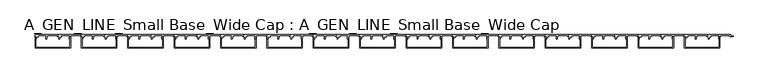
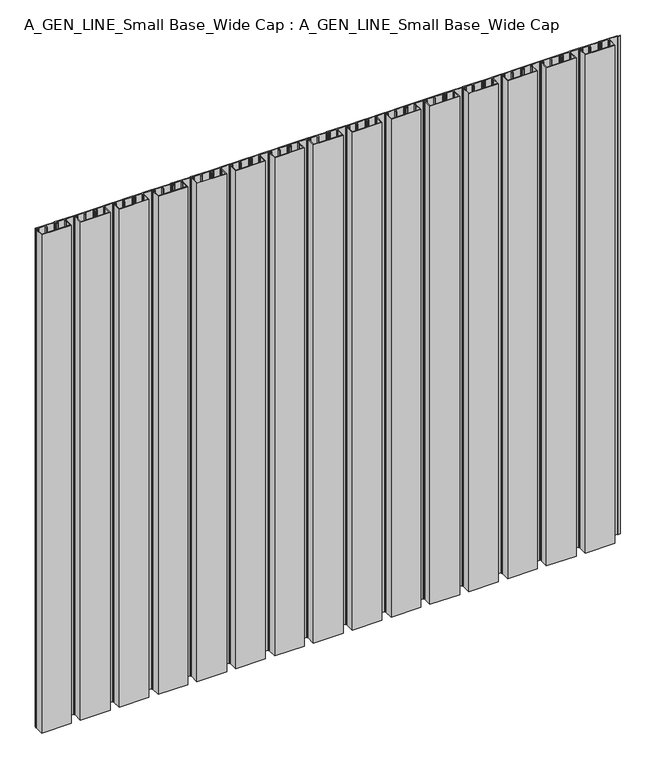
"""IFC4 building model written with IfcOpenShell, lengths in millimetres: proxy geometry, A_GEN_LINE_Small Base_Wide Cap : A_GEN_LINE_Small Base_Wide Cap."""

from ifc_helpers import new_model, si_unit, origin, origin_with_axes, place, context, project, spatial, polyline, outline, extrude, source, transform, mapped, element, save


def a_gen_line_small_base_wide_cap_a_gen_line_small_base_wide_f15921c7(model_context):
    return source(origin(), model_context, "Body", "SweptSolid", [
        extrude(outline(polyline([(1548.522222, -32.2007192), (1548.522222, -6.1), (1550.671229, -6.1), (1550.671229, -8.3419727), (1549.922222, -8.5826662), (1549.922222, -30.8007192), (1631.7452365, -30.8007192), (1631.7452365, -8.5826662), (1630.9962295, -8.3419727), (1630.9962295, -6.1), (1633.1452365, -6.1), (1633.1452365, -32.2007192), (1548.522222, -32.2007192)])), origin_with_axes(), (0.0, 0.0, 1.0), 1500.0),
        extrude(outline(polyline([(1437.9082742, -32.2007192), (1437.9082742, -6.1), (1440.0572811, -6.1), (1440.0572811, -8.3419727), (1439.3082742, -8.5826662), (1439.3082742, -30.8007192), (1521.1312886, -30.8007192), (1521.1312886, -8.5826662), (1520.3822817, -8.3419727), (1520.3822817, -6.1), (1522.5312886, -6.1), (1522.5312886, -32.2007192), (1437.9082742, -32.2007192)])), origin_with_axes(), (0.0, 0.0, 1.0), 1500.0),
        extrude(outline(polyline([(1327.2943263, -32.2007192), (1327.2943263, -6.1), (1329.4433332, -6.1), (1329.4433332, -8.3419727), (1328.6943263, -8.5826662), (1328.6943263, -30.8007192), (1410.5173407, -30.8007192), (1410.5173407, -8.5826662), (1409.7683338, -8.3419727), (1409.7683338, -6.1), (1411.9173407, -6.1), (1411.9173407, -32.2007192), (1327.2943263, -32.2007192)])), origin_with_axes(), (0.0, 0.0, 1.0), 1500.0),
        extrude(outline(polyline([(1216.6803784, -32.2007192), (1216.6803784, -6.1), (1218.8293853, -6.1), (1218.8293853, -8.3419727), (1218.0803784, -8.5826662), (1218.0803784, -30.8007192), (1299.9033928, -30.8007192), (1299.9033928, -8.5826662), (1299.1543859, -8.3419727), (1299.1543859, -6.1), (1301.3033928, -6.1), (1301.3033928, -32.2007192), (1216.6803784, -32.2007192)])), origin_with_axes(), (0.0, 0.0, 1.0), 1500.0),
        extrude(outline(polyline([(1603.9022444, 0.0), (1658.4751388, 0.0), (1658.4751388, -2.85), (1664.4751388, -2.85), (1664.4751388, -4.2), (1656.9567837, -4.2), (1656.9567837, -2.4), (1633.4872162, -2.4), (1633.4872162, -6.1021884), (1632.3722428, -6.1021884), (1630.783677, -8.4994005), (1632.0456109, -8.4994005), (1632.0456109, -10.4818695), (1629.8430848, -10.4818695), (1629.8430848, -5.6343123), (1631.942206, -2.4), (1611.121797, -2.4), (1611.121797, -6.1), (1607.1313476, -6.1), (1607.1313476, -10.4818695), (1604.9288216, -10.4818695), (1604.9288216, -8.4994005), (1606.1907555, -8.4994005), (1604.6021897, -6.1021884), (1603.5160042, -6.1021884), (1603.5160042, -4.9), (1609.921797, -4.9), (1609.921797, -2.7), (1603.9022444, -2.7), (1603.9022444, 0.0)])), origin_with_axes(), (0.0, 0.0, 1.0), 1500.0),
        extrude(outline(polyline([(1548.5952704, 0.0), (1603.1681648, 0.0), (1603.1681648, -2.85), (1609.1681648, -2.85), (1609.1681648, -4.2), (1601.6498098, -4.2), (1601.6498098, -2.4), (1578.1802423, -2.4), (1578.1802423, -6.1021884), (1577.0652689, -6.1021884), (1575.4767031, -8.4994005), (1576.738637, -8.4994005), (1576.738637, -10.4818695), (1574.5361109, -10.4818695), (1574.5361109, -5.6343123), (1576.6352321, -2.4), (1555.8148231, -2.4), (1555.8148231, -6.1), (1551.8243737, -6.1), (1551.8243737, -10.4818695), (1549.6218477, -10.4818695), (1549.6218477, -8.4994005), (1550.8837815, -8.4994005), (1549.2952158, -6.1021884), (1548.2090302, -6.1021884), (1548.2090302, -4.9), (1554.6148231, -4.9), (1554.6148231, -2.7), (1548.5952704, -2.7), (1548.5952704, 0.0)])), origin_with_axes(), (0.0, 0.0, 1.0), 1500.0),
        extrude(outline(polyline([(1493.2882965, 0.0), (1547.8611909, 0.0), (1547.8611909, -2.85), (1553.8611909, -2.85), (1553.8611909, -4.2), (1546.3428358, -4.2), (1546.3428358, -2.4), (1522.8732684, -2.4), (1522.8732684, -6.1021884), (1521.7582949, -6.1021884), (1520.1697291, -8.4994005), (1521.431663, -8.4994005), (1521.431663, -10.4818695), (1519.229137, -10.4818695), (1519.229137, -5.6343123), (1521.3282581, -2.4), (1500.5078491, -2.4), (1500.5078491, -6.1), (1496.5173998, -6.1), (1496.5173998, -10.4818695), (1494.3148737, -10.4818695), (1494.3148737, -8.4994005), (1495.5768076, -8.4994005), (1493.9882418, -6.1021884), (1492.9020563, -6.1021884), (1492.9020563, -4.9), (1499.3078491, -4.9), (1499.3078491, -2.7), (1493.2882965, -2.7), (1493.2882965, 0.0)])), origin_with_axes(), (0.0, 0.0, 1.0), 1500.0),
        extrude(outline(polyline([(1437.9813225, 0.0), (1492.5542169, 0.0), (1492.5542169, -2.85), (1498.5542169, -2.85), (1498.5542169, -4.2), (1491.0358619, -4.2), (1491.0358619, -2.4), (1467.5662944, -2.4), (1467.5662944, -6.1021884), (1466.451321, -6.1021884), (1464.8627552, -8.4994005), (1466.1246891, -8.4994005), (1466.1246891, -10.4818695), (1463.922163, -10.4818695), (1463.922163, -5.6343123), (1466.0212842, -2.4), (1445.2008752, -2.4), (1445.2008752, -6.1), (1441.2104258, -6.1), (1441.2104258, -10.4818695), (1439.0078998, -10.4818695), (1439.0078998, -8.4994005), (1440.2698337, -8.4994005), (1438.6812679, -6.1021884), (1437.5950823, -6.1021884), (1437.5950823, -4.9), (1444.0008752, -4.9), (1444.0008752, -2.7), (1437.9813225, -2.7), (1437.9813225, 0.0)])), origin_with_axes(), (0.0, 0.0, 1.0), 1500.0),
        extrude(outline(polyline([(1382.6743486, 0.0), (1437.247243, 0.0), (1437.247243, -2.85), (1443.247243, -2.85), (1443.247243, -4.2), (1435.7288879, -4.2), (1435.7288879, -2.4), (1412.2593205, -2.4), (1412.2593205, -6.1021884), (1411.144347, -6.1021884), (1409.5557812, -8.4994005), (1410.8177151, -8.4994005), (1410.8177151, -10.4818695), (1408.6151891, -10.4818695), (1408.6151891, -5.6343123), (1410.7143102, -2.4), (1389.8939013, -2.4), (1389.8939013, -6.1), (1385.9034519, -6.1), (1385.9034519, -10.4818695), (1383.7009258, -10.4818695), (1383.7009258, -8.4994005), (1384.9628597, -8.4994005), (1383.3742939, -6.1021884), (1382.2881084, -6.1021884), (1382.2881084, -4.9), (1388.6939013, -4.9), (1388.6939013, -2.7), (1382.6743486, -2.7), (1382.6743486, 0.0)])), origin_with_axes(), (0.0, 0.0, 1.0), 1500.0),
        extrude(outline(polyline([(1327.3673747, 0.0), (1381.9402691, 0.0), (1381.9402691, -2.85), (1387.9402691, -2.85), (1387.9402691, -4.2), (1380.421914, -4.2), (1380.421914, -2.4), (1356.9523465, -2.4), (1356.9523465, -6.1021884), (1355.8373731, -6.1021884), (1354.2488073, -8.4994005), (1355.5107412, -8.4994005), (1355.5107412, -10.4818695), (1353.3082151, -10.4818695), (1353.3082151, -5.6343123), (1355.4073363, -2.4), (1334.5869273, -2.4), (1334.5869273, -6.1), (1330.5964779, -6.1), (1330.5964779, -10.4818695), (1328.3939519, -10.4818695), (1328.3939519, -8.4994005), (1329.6558858, -8.4994005), (1328.06732, -6.1021884), (1326.9811345, -6.1021884), (1326.9811345, -4.9), (1333.3869273, -4.9), (1333.3869273, -2.7), (1327.3673747, -2.7), (1327.3673747, 0.0)])), origin_with_axes(), (0.0, 0.0, 1.0), 1500.0),
        extrude(outline(polyline([(1272.0604007, 0.0), (1326.6332951, 0.0), (1326.6332951, -2.85), (1332.6332951, -2.85), (1332.6332951, -4.2), (1325.11494, -4.2), (1325.11494, -2.4), (1301.6453726, -2.4), (1301.6453726, -6.1021884), (1300.5303991, -6.1021884), (1298.9418333, -8.4994005), (1300.2037672, -8.4994005), (1300.2037672, -10.4818695), (1298.0012412, -10.4818695), (1298.0012412, -5.6343123), (1300.1003623, -2.4), (1279.2799534, -2.4), (1279.2799534, -6.1), (1275.289504, -6.1), (1275.289504, -10.4818695), (1273.0869779, -10.4818695), (1273.0869779, -8.4994005), (1274.3489118, -8.4994005), (1272.760346, -6.1021884), (1271.6741605, -6.1021884), (1271.6741605, -4.9), (1278.0799534, -4.9), (1278.0799534, -2.7), (1272.0604007, -2.7), (1272.0604007, 0.0)])), origin_with_axes(), (0.0, 0.0, 1.0), 1500.0),
        extrude(outline(polyline([(1216.7534268, 0.0), (1271.3263212, 0.0), (1271.3263212, -2.85), (1277.3263212, -2.85), (1277.3263212, -4.2), (1269.8079661, -4.2), (1269.8079661, -2.4), (1246.3383986, -2.4), (1246.3383986, -6.1021884), (1245.2234252, -6.1021884), (1243.6348594, -8.4994005), (1244.8967933, -8.4994005), (1244.8967933, -10.4818695), (1242.6942672, -10.4818695), (1242.6942672, -5.6343123), (1244.7933884, -2.4), (1223.9729794, -2.4), (1223.9729794, -6.1), (1219.98253, -6.1), (1219.98253, -10.4818695), (1217.780004, -10.4818695), (1217.780004, -8.4994005), (1219.0419379, -8.4994005), (1217.4533721, -6.1021884), (1216.3671866, -6.1021884), (1216.3671866, -4.9), (1222.7729794, -4.9), (1222.7729794, -2.7), (1216.7534268, -2.7), (1216.7534268, 0.0)])), origin_with_axes(), (0.0, 0.0, 1.0), 1500.0),
        extrude(outline(polyline([(1106.0664305, -32.2007192), (1106.0664305, -6.1), (1108.2154375, -6.1), (1108.2154375, -8.3419727), (1107.4664305, -8.5826662), (1107.4664305, -30.8007192), (1189.289445, -30.8007192), (1189.289445, -8.5826662), (1188.540438, -8.3419727), (1188.540438, -6.1), (1190.689445, -6.1), (1190.689445, -32.2007192), (1106.0664305, -32.2007192)])), origin_with_axes(), (0.0, 0.0, 1.0), 1500.0),
        extrude(outline(polyline([(995.4524826, -32.2007192), (995.4524826, -6.1), (997.6014896, -6.1), (997.6014896, -8.3419727), (996.8524826, -8.5826662), (996.8524826, -30.8007192), (1078.6754971, -30.8007192), (1078.6754971, -8.5826662), (1077.9264901, -8.3419727), (1077.9264901, -6.1), (1080.0754971, -6.1), (1080.0754971, -32.2007192), (995.4524826, -32.2007192)])), origin_with_axes(), (0.0, 0.0, 1.0), 1500.0),
        extrude(outline(polyline([(884.8385347, -32.2007192), (884.8385347, -6.1), (886.9875417, -6.1), (886.9875417, -8.3419727), (886.2385347, -8.5826662), (886.2385347, -30.8007192), (968.0615492, -30.8007192), (968.0615492, -8.5826662), (967.3125422, -8.3419727), (967.3125422, -6.1), (969.4615492, -6.1), (969.4615492, -32.2007192), (884.8385347, -32.2007192)])), origin_with_axes(), (0.0, 0.0, 1.0), 1500.0),
        extrude(outline(polyline([(774.2245868, -32.2007192), (774.2245868, -6.1), (776.3735938, -6.1), (776.3735938, -8.3419727), (775.6245868, -8.5826662), (775.6245868, -30.8007192), (857.4476013, -30.8007192), (857.4476013, -8.5826662), (856.6985943, -8.3419727), (856.6985943, -6.1), (858.8476013, -6.1), (858.8476013, -32.2007192), (774.2245868, -32.2007192)])), origin_with_axes(), (0.0, 0.0, 1.0), 1500.0),
        extrude(outline(polyline([(1161.4464528, 0.0), (1216.0193472, 0.0), (1216.0193472, -2.85), (1222.0193472, -2.85), (1222.0193472, -4.2), (1214.5009922, -4.2), (1214.5009922, -2.4), (1191.0314247, -2.4), (1191.0314247, -6.1021884), (1189.9164513, -6.1021884), (1188.3278855, -8.4994005), (1189.5898194, -8.4994005), (1189.5898194, -10.4818695), (1187.3872933, -10.4818695), (1187.3872933, -5.6343123), (1189.4864144, -2.4), (1168.6660055, -2.4), (1168.6660055, -6.1), (1164.6755561, -6.1), (1164.6755561, -10.4818695), (1162.47303, -10.4818695), (1162.47303, -8.4994005), (1163.7349639, -8.4994005), (1162.1463981, -6.1021884), (1161.0602126, -6.1021884), (1161.0602126, -4.9), (1167.4660055, -4.9), (1167.4660055, -2.7), (1161.4464528, -2.7), (1161.4464528, 0.0)])), origin_with_axes(), (0.0, 0.0, 1.0), 1500.0),
        extrude(outline(polyline([(1106.1394789, 0.0), (1160.7123733, 0.0), (1160.7123733, -2.85), (1166.7123733, -2.85), (1166.7123733, -4.2), (1159.1940182, -4.2), (1159.1940182, -2.4), (1135.7244508, -2.4), (1135.7244508, -6.1021884), (1134.6094773, -6.1021884), (1133.0209115, -8.4994005), (1134.2828454, -8.4994005), (1134.2828454, -10.4818695), (1132.0803194, -10.4818695), (1132.0803194, -5.6343123), (1134.1794405, -2.4), (1113.3590315, -2.4), (1113.3590315, -6.1), (1109.3685822, -6.1), (1109.3685822, -10.4818695), (1107.1660561, -10.4818695), (1107.1660561, -8.4994005), (1108.42799, -8.4994005), (1106.8394242, -6.1021884), (1105.7532387, -6.1021884), (1105.7532387, -4.9), (1112.1590315, -4.9), (1112.1590315, -2.7), (1106.1394789, -2.7), (1106.1394789, 0.0)])), origin_with_axes(), (0.0, 0.0, 1.0), 1500.0),
        extrude(outline(polyline([(1050.8325049, 0.0), (1105.4053993, 0.0), (1105.4053993, -2.85), (1111.4053993, -2.85), (1111.4053993, -4.2), (1103.8870443, -4.2), (1103.8870443, -2.4), (1080.4174768, -2.4), (1080.4174768, -6.1021884), (1079.3025034, -6.1021884), (1077.7139376, -8.4994005), (1078.9758715, -8.4994005), (1078.9758715, -10.4818695), (1076.7733454, -10.4818695), (1076.7733454, -5.6343123), (1078.8724666, -2.4), (1058.0520576, -2.4), (1058.0520576, -6.1), (1054.0616082, -6.1), (1054.0616082, -10.4818695), (1051.8590822, -10.4818695), (1051.8590822, -8.4994005), (1053.121016, -8.4994005), (1051.5324503, -6.1021884), (1050.4462647, -6.1021884), (1050.4462647, -4.9), (1056.8520576, -4.9), (1056.8520576, -2.7), (1050.8325049, -2.7), (1050.8325049, 0.0)])), origin_with_axes(), (0.0, 0.0, 1.0), 1500.0),
        extrude(outline(polyline([(995.525531, 0.0), (1050.0984254, 0.0), (1050.0984254, -2.85), (1056.0984254, -2.85), (1056.0984254, -4.2), (1048.5800703, -4.2), (1048.5800703, -2.4), (1025.1105029, -2.4), (1025.1105029, -6.1021884), (1023.9955294, -6.1021884), (1022.4069636, -8.4994005), (1023.6688975, -8.4994005), (1023.6688975, -10.4818695), (1021.4663715, -10.4818695), (1021.4663715, -5.6343123), (1023.5654926, -2.4), (1002.7450837, -2.4), (1002.7450837, -6.1), (998.7546343, -6.1), (998.7546343, -10.4818695), (996.5521082, -10.4818695), (996.5521082, -8.4994005), (997.8140421, -8.4994005), (996.2254763, -6.1021884), (995.1392908, -6.1021884), (995.1392908, -4.9), (1001.5450837, -4.9), (1001.5450837, -2.7), (995.525531, -2.7), (995.525531, 0.0)])), origin_with_axes(), (0.0, 0.0, 1.0), 1500.0),
        extrude(outline(polyline([(940.218557, 0.0), (994.7914514, 0.0), (994.7914514, -2.85), (1000.7914514, -2.85), (1000.7914514, -4.2), (993.2730964, -4.2), (993.2730964, -2.4), (969.8035289, -2.4), (969.8035289, -6.1021884), (968.6885555, -6.1021884), (967.0999897, -8.4994005), (968.3619236, -8.4994005), (968.3619236, -10.4818695), (966.1593975, -10.4818695), (966.1593975, -5.6343123), (968.2585187, -2.4), (947.4381097, -2.4), (947.4381097, -6.1), (943.4476603, -6.1), (943.4476603, -10.4818695), (941.2451343, -10.4818695), (941.2451343, -8.4994005), (942.5070682, -8.4994005), (940.9185024, -6.1021884), (939.8323169, -6.1021884), (939.8323169, -4.9), (946.2381097, -4.9), (946.2381097, -2.7), (940.218557, -2.7), (940.218557, 0.0)])), origin_with_axes(), (0.0, 0.0, 1.0), 1500.0),
        extrude(outline(polyline([(884.9115831, 0.0), (939.4844775, 0.0), (939.4844775, -2.85), (945.4844775, -2.85), (945.4844775, -4.2), (937.9661224, -4.2), (937.9661224, -2.4), (914.496555, -2.4), (914.496555, -6.1021884), (913.3815815, -6.1021884), (911.7930157, -8.4994005), (913.0549496, -8.4994005), (913.0549496, -10.4818695), (910.8524236, -10.4818695), (910.8524236, -5.6343123), (912.9515447, -2.4), (892.1311358, -2.4), (892.1311358, -6.1), (888.1406864, -6.1), (888.1406864, -10.4818695), (885.9381603, -10.4818695), (885.9381603, -8.4994005), (887.2000942, -8.4994005), (885.6115284, -6.1021884), (884.5253429, -6.1021884), (884.5253429, -4.9), (890.9311358, -4.9), (890.9311358, -2.7), (884.9115831, -2.7), (884.9115831, 0.0)])), origin_with_axes(), (0.0, 0.0, 1.0), 1500.0),
        extrude(outline(polyline([(829.6046092, 0.0), (884.1775036, 0.0), (884.1775036, -2.85), (890.1775036, -2.85), (890.1775036, -4.2), (882.6591485, -4.2), (882.6591485, -2.4), (859.189581, -2.4), (859.189581, -6.1021884), (858.0746076, -6.1021884), (856.4860418, -8.4994005), (857.7479757, -8.4994005), (857.7479757, -10.4818695), (855.5454496, -10.4818695), (855.5454496, -5.6343123), (857.6445708, -2.4), (836.8241618, -2.4), (836.8241618, -6.1), (832.8337124, -6.1), (832.8337124, -10.4818695), (830.6311864, -10.4818695), (830.6311864, -8.4994005), (831.8931203, -8.4994005), (830.3045545, -6.1021884), (829.218369, -6.1021884), (829.218369, -4.9), (835.6241618, -4.9), (835.6241618, -2.7), (829.6046092, -2.7), (829.6046092, 0.0)])), origin_with_axes(), (0.0, 0.0, 1.0), 1500.0),
        extrude(outline(polyline([(774.2976352, 0.0), (828.8705296, 0.0), (828.8705296, -2.85), (834.8705296, -2.85), (834.8705296, -4.2), (827.3521745, -4.2), (827.3521745, -2.4), (803.8826071, -2.4), (803.8826071, -6.1021884), (802.7676336, -6.1021884), (801.1790678, -8.4994005), (802.4410017, -8.4994005), (802.4410017, -10.4818695), (800.2384757, -10.4818695), (800.2384757, -5.6343123), (802.3375968, -2.4), (781.5171879, -2.4), (781.5171879, -6.1), (777.5267385, -6.1), (777.5267385, -10.4818695), (775.3242124, -10.4818695), (775.3242124, -8.4994005), (776.5861463, -8.4994005), (774.9975805, -6.1021884), (773.911395, -6.1021884), (773.911395, -4.9), (780.3171879, -4.9), (780.3171879, -2.7), (774.2976352, -2.7), (774.2976352, 0.0)])), origin_with_axes(), (0.0, 0.0, 1.0), 1500.0),
        extrude(outline(polyline([(718.9906613, 0.0), (773.5635557, 0.0), (773.5635557, -2.85), (779.5635557, -2.85), (779.5635557, -4.2), (772.0452006, -4.2), (772.0452006, -2.4), (748.5756331, -2.4), (748.5756331, -6.1021884), (747.4606597, -6.1021884), (745.8720939, -8.4994005), (747.1340278, -8.4994005), (747.1340278, -10.4818695), (744.9315017, -10.4818695), (744.9315017, -5.6343123), (747.0306229, -2.4), (726.2102139, -2.4), (726.2102139, -6.1), (722.2197645, -6.1), (722.2197645, -10.4818695), (720.0172385, -10.4818695), (720.0172385, -8.4994005), (721.2791724, -8.4994005), (719.6906066, -6.1021884), (718.6044211, -6.1021884), (718.6044211, -4.9), (725.0102139, -4.9), (725.0102139, -2.7), (718.9906613, -2.7), (718.9906613, 0.0)])), origin_with_axes(), (0.0, 0.0, 1.0), 1500.0),
        extrude(outline(polyline([(663.6836873, 0.0), (718.2565817, 0.0), (718.2565817, -2.85), (724.2565817, -2.85), (724.2565817, -4.2), (716.7382267, -4.2), (716.7382267, -2.4), (693.2686592, -2.4), (693.2686592, -6.1021884), (692.1536858, -6.1021884), (690.56512, -8.4994005), (691.8270539, -8.4994005), (691.8270539, -10.4818695), (689.6245278, -10.4818695), (689.6245278, -5.6343123), (691.7236489, -2.4), (670.90324, -2.4), (670.90324, -6.1), (666.9127906, -6.1), (666.9127906, -10.4818695), (664.7102645, -10.4818695), (664.7102645, -8.4994005), (665.9721984, -8.4994005), (664.3836326, -6.1021884), (663.2974471, -6.1021884), (663.2974471, -4.9), (669.70324, -4.9), (669.70324, -2.7), (663.6836873, -2.7), (663.6836873, 0.0)])), origin_with_axes(), (0.0, 0.0, 1.0), 1500.0),
        extrude(outline(polyline([(608.3767134, 0.0), (662.9496078, 0.0), (662.9496078, -2.85), (668.9496078, -2.85), (668.9496078, -4.2), (661.4312527, -4.2), (661.4312527, -2.4), (637.9616853, -2.4), (637.9616853, -6.1021884), (636.8467118, -6.1021884), (635.258146, -8.4994005), (636.5200799, -8.4994005), (636.5200799, -10.4818695), (634.3175539, -10.4818695), (634.3175539, -5.6343123), (636.416675, -2.4), (615.596266, -2.4), (615.596266, -6.1), (611.6058167, -6.1), (611.6058167, -10.4818695), (609.4032906, -10.4818695), (609.4032906, -8.4994005), (610.6652245, -8.4994005), (609.0766587, -6.1021884), (607.9904732, -6.1021884), (607.9904732, -4.9), (614.396266, -4.9), (614.396266, -2.7), (608.3767134, -2.7), (608.3767134, 0.0)])), origin_with_axes(), (0.0, 0.0, 1.0), 1500.0),
        extrude(outline(polyline([(553.0697394, 0.0), (607.6426338, 0.0), (607.6426338, -2.85), (613.6426338, -2.85), (613.6426338, -4.2), (606.1242788, -4.2), (606.1242788, -2.4), (582.6547113, -2.4), (582.6547113, -6.1021884), (581.5397379, -6.1021884), (579.9511721, -8.4994005), (581.213106, -8.4994005), (581.213106, -10.4818695), (579.0105799, -10.4818695), (579.0105799, -5.6343123), (581.1097011, -2.4), (560.2892921, -2.4), (560.2892921, -6.1), (556.2988427, -6.1), (556.2988427, -10.4818695), (554.0963167, -10.4818695), (554.0963167, -8.4994005), (555.3582506, -8.4994005), (553.7696848, -6.1021884), (552.6834992, -6.1021884), (552.6834992, -4.9), (559.0892921, -4.9), (559.0892921, -2.7), (553.0697394, -2.7), (553.0697394, 0.0)])), origin_with_axes(), (0.0, 0.0, 1.0), 1500.0),
        extrude(outline(polyline([(497.7627655, 0.0), (552.3356599, 0.0), (552.3356599, -2.85), (558.3356599, -2.85), (558.3356599, -4.2), (550.8173048, -4.2), (550.8173048, -2.4), (527.3477374, -2.4), (527.3477374, -6.1021884), (526.2327639, -6.1021884), (524.6441981, -8.4994005), (525.906132, -8.4994005), (525.906132, -10.4818695), (523.703606, -10.4818695), (523.703606, -5.6343123), (525.8027271, -2.4), (504.9823182, -2.4), (504.9823182, -6.1), (500.9918688, -6.1), (500.9918688, -10.4818695), (498.7893427, -10.4818695), (498.7893427, -8.4994005), (500.0512766, -8.4994005), (498.4627108, -6.1021884), (497.3765253, -6.1021884), (497.3765253, -4.9), (503.7823182, -4.9), (503.7823182, -2.7), (497.7627655, -2.7), (497.7627655, 0.0)])), origin_with_axes(), (0.0, 0.0, 1.0), 1500.0),
        extrude(outline(polyline([(442.4557916, 0.0), (497.028686, 0.0), (497.028686, -2.85), (503.028686, -2.85), (503.028686, -4.2), (495.5103309, -4.2), (495.5103309, -2.4), (472.0407634, -2.4), (472.0407634, -6.1021884), (470.92579, -6.1021884), (469.3372242, -8.4994005), (470.5991581, -8.4994005), (470.5991581, -10.4818695), (468.396632, -10.4818695), (468.396632, -5.6343123), (470.4957532, -2.4), (449.6753442, -2.4), (449.6753442, -6.1), (445.6848948, -6.1), (445.6848948, -10.4818695), (443.4823688, -10.4818695), (443.4823688, -8.4994005), (444.7443027, -8.4994005), (443.1557369, -6.1021884), (442.0695514, -6.1021884), (442.0695514, -4.9), (448.4753442, -4.9), (448.4753442, -2.7), (442.4557916, -2.7), (442.4557916, 0.0)])), origin_with_axes(), (0.0, 0.0, 1.0), 1500.0),
        extrude(outline(polyline([(387.1488176, 0.0), (441.721712, 0.0), (441.721712, -2.85), (447.721712, -2.85), (447.721712, -4.2), (440.2033569, -4.2), (440.2033569, -2.4), (416.7337895, -2.4), (416.7337895, -6.1021884), (415.618816, -6.1021884), (414.0302502, -8.4994005), (415.2921841, -8.4994005), (415.2921841, -10.4818695), (413.0896581, -10.4818695), (413.0896581, -5.6343123), (415.1887792, -2.4), (394.3683703, -2.4), (394.3683703, -6.1), (390.3779209, -6.1), (390.3779209, -10.4818695), (388.1753948, -10.4818695), (388.1753948, -8.4994005), (389.4373287, -8.4994005), (387.8487629, -6.1021884), (386.7625774, -6.1021884), (386.7625774, -4.9), (393.1683703, -4.9), (393.1683703, -2.7), (387.1488176, -2.7), (387.1488176, 0.0)])), origin_with_axes(), (0.0, 0.0, 1.0), 1500.0),
        extrude(outline(polyline([(663.6106389, -32.2007192), (663.6106389, -6.1), (665.7596459, -6.1), (665.7596459, -8.3419727), (665.0106389, -8.5826662), (665.0106389, -30.8007192), (746.8336534, -30.8007192), (746.8336534, -8.5826662), (746.0846464, -8.3419727), (746.0846464, -6.1), (748.2336534, -6.1), (748.2336534, -32.2007192), (663.6106389, -32.2007192)])), origin_with_axes(), (0.0, 0.0, 1.0), 1500.0),
        extrude(outline(polyline([(552.9966911, -32.2007192), (552.9966911, -6.1), (555.145698, -6.1), (555.145698, -8.3419727), (554.3966911, -8.5826662), (554.3966911, -30.8007192), (636.2197055, -30.8007192), (636.2197055, -8.5826662), (635.4706986, -8.3419727), (635.4706986, -6.1), (637.6197055, -6.1), (637.6197055, -32.2007192), (552.9966911, -32.2007192)])), origin_with_axes(), (0.0, 0.0, 1.0), 1500.0),
        extrude(outline(polyline([(442.3827432, -32.2007192), (442.3827432, -6.1), (444.5317501, -6.1), (444.5317501, -8.3419727), (443.7827432, -8.5826662), (443.7827432, -30.8007192), (525.6057576, -30.8007192), (525.6057576, -8.5826662), (524.8567507, -8.3419727), (524.8567507, -6.1), (527.0057576, -6.1), (527.0057576, -32.2007192), (442.3827432, -32.2007192)])), origin_with_axes(), (0.0, 0.0, 1.0), 1500.0),
        extrude(outline(polyline([(331.7687953, -32.2007192), (331.7687953, -6.1), (333.9178022, -6.1), (333.9178022, -8.3419727), (333.1687953, -8.5826662), (333.1687953, -30.8007192), (414.9918097, -30.8007192), (414.9918097, -8.5826662), (414.2428028, -8.3419727), (414.2428028, -6.1), (416.3918097, -6.1), (416.3918097, -32.2007192), (331.7687953, -32.2007192)])), origin_with_axes(), (0.0, 0.0, 1.0), 1500.0),
        extrude(outline(polyline([(221.1548474, -32.2007192), (221.1548474, -6.1), (223.3038544, -6.1), (223.3038544, -8.3419727), (222.5548474, -8.5826662), (222.5548474, -30.8007192), (304.3778618, -30.8007192), (304.3778618, -8.5826662), (303.6288549, -8.3419727), (303.6288549, -6.1), (305.7778618, -6.1), (305.7778618, -32.2007192), (221.1548474, -32.2007192)])), origin_with_axes(), (0.0, 0.0, 1.0), 1500.0),
        extrude(outline(polyline([(110.5408995, -32.2007192), (110.5408995, -6.1), (112.6899065, -6.1), (112.6899065, -8.3419727), (111.9408995, -8.5826662), (111.9408995, -30.8007192), (193.763914, -30.8007192), (193.763914, -8.5826662), (193.014907, -8.3419727), (193.014907, -6.1), (195.163914, -6.1), (195.163914, -32.2007192), (110.5408995, -32.2007192)])), origin_with_axes(), (0.0, 0.0, 1.0), 1500.0),
        extrude(outline(polyline([(-0.0730484, -32.2007192), (-0.0730484, -6.1), (2.0759586, -6.1), (2.0759586, -8.3419727), (1.3269516, -8.5826662), (1.3269516, -30.8007192), (83.1499661, -30.8007192), (83.1499661, -8.5826662), (82.4009591, -8.3419727), (82.4009591, -6.1), (84.5499661, -6.1), (84.5499661, -32.2007192), (-0.0730484, -32.2007192)])), origin_with_axes(), (0.0, 0.0, 1.0), 1500.0),
        extrude(outline(polyline([(331.8418437, 0.0), (386.4147381, 0.0), (386.4147381, -2.85), (392.4147381, -2.85), (392.4147381, -4.2), (384.896383, -4.2), (384.896383, -2.4), (361.4268155, -2.4), (361.4268155, -6.1021884), (360.3118421, -6.1021884), (358.7232763, -8.4994005), (359.9852102, -8.4994005), (359.9852102, -10.4818695), (357.7826841, -10.4818695), (357.7826841, -5.6343123), (359.8818053, -2.4), (339.0613963, -2.4), (339.0613963, -6.1), (335.0709469, -6.1), (335.0709469, -10.4818695), (332.8684209, -10.4818695), (332.8684209, -8.4994005), (334.1303548, -8.4994005), (332.541789, -6.1021884), (331.4556035, -6.1021884), (331.4556035, -4.9), (337.8613963, -4.9), (337.8613963, -2.7), (331.8418437, -2.7), (331.8418437, 0.0)])), origin_with_axes(), (0.0, 0.0, 1.0), 1500.0),
        extrude(outline(polyline([(276.5348697, 0.0), (331.1077641, 0.0), (331.1077641, -2.85), (337.1077641, -2.85), (337.1077641, -4.2), (329.589409, -4.2), (329.589409, -2.4), (306.1198416, -2.4), (306.1198416, -6.1021884), (305.0048681, -6.1021884), (303.4163024, -8.4994005), (304.6782362, -8.4994005), (304.6782362, -10.4818695), (302.4757102, -10.4818695), (302.4757102, -5.6343123), (304.5748313, -2.4), (283.7544224, -2.4), (283.7544224, -6.1), (279.763973, -6.1), (279.763973, -10.4818695), (277.5614469, -10.4818695), (277.5614469, -8.4994005), (278.8233808, -8.4994005), (277.234815, -6.1021884), (276.1486295, -6.1021884), (276.1486295, -4.9), (282.5544224, -4.9), (282.5544224, -2.7), (276.5348697, -2.7), (276.5348697, 0.0)])), origin_with_axes(), (0.0, 0.0, 1.0), 1500.0),
        extrude(outline(polyline([(221.2278958, 0.0), (275.8007902, 0.0), (275.8007902, -2.85), (281.8007902, -2.85), (281.8007902, -4.2), (274.2824351, -4.2), (274.2824351, -2.4), (250.8128676, -2.4), (250.8128676, -6.1021884), (249.6978942, -6.1021884), (248.1093284, -8.4994005), (249.3712623, -8.4994005), (249.3712623, -10.4818695), (247.1687362, -10.4818695), (247.1687362, -5.6343123), (249.2678574, -2.4), (228.4474484, -2.4), (228.4474484, -6.1), (224.456999, -6.1), (224.456999, -10.4818695), (222.254473, -10.4818695), (222.254473, -8.4994005), (223.5164069, -8.4994005), (221.9278411, -6.1021884), (220.8416556, -6.1021884), (220.8416556, -4.9), (227.2474484, -4.9), (227.2474484, -2.7), (221.2278958, -2.7), (221.2278958, 0.0)])), origin_with_axes(), (0.0, 0.0, 1.0), 1500.0),
        extrude(outline(polyline([(165.9209218, 0.0), (220.4938162, 0.0), (220.4938162, -2.85), (226.4938162, -2.85), (226.4938162, -4.2), (218.9754612, -4.2), (218.9754612, -2.4), (195.5058937, -2.4), (195.5058937, -6.1021884), (194.3909203, -6.1021884), (192.8023545, -8.4994005), (194.0642884, -8.4994005), (194.0642884, -10.4818695), (191.8617623, -10.4818695), (191.8617623, -5.6343123), (193.9608835, -2.4), (173.1404745, -2.4), (173.1404745, -6.1), (169.1500251, -6.1), (169.1500251, -10.4818695), (166.947499, -10.4818695), (166.947499, -8.4994005), (168.2094329, -8.4994005), (166.6208671, -6.1021884), (165.5346816, -6.1021884), (165.5346816, -4.9), (171.9404745, -4.9), (171.9404745, -2.7), (165.9209218, -2.7), (165.9209218, 0.0)])), origin_with_axes(), (0.0, 0.0, 1.0), 1500.0),
        extrude(outline(polyline([(110.6139479, 0.0), (165.1868423, 0.0), (165.1868423, -2.85), (171.1868423, -2.85), (171.1868423, -4.2), (163.6684872, -4.2), (163.6684872, -2.4), (140.1989198, -2.4), (140.1989198, -6.1021884), (139.0839463, -6.1021884), (137.4953805, -8.4994005), (138.7573144, -8.4994005), (138.7573144, -10.4818695), (136.5547884, -10.4818695), (136.5547884, -5.6343123), (138.6539095, -2.4), (117.8335005, -2.4), (117.8335005, -6.1), (113.8430512, -6.1), (113.8430512, -10.4818695), (111.6405251, -10.4818695), (111.6405251, -8.4994005), (112.902459, -8.4994005), (111.3138932, -6.1021884), (110.2277077, -6.1021884), (110.2277077, -4.9), (116.6335005, -4.9), (116.6335005, -2.7), (110.6139479, -2.7), (110.6139479, 0.0)])), origin_with_axes(), (0.0, 0.0, 1.0), 1500.0),
        extrude(outline(polyline([(55.3069739, 0.0), (109.8798683, 0.0), (109.8798683, -2.85), (115.8798683, -2.85), (115.8798683, -4.2), (108.3615133, -4.2), (108.3615133, -2.4), (84.8919458, -2.4), (84.8919458, -6.1021884), (83.7769724, -6.1021884), (82.1884066, -8.4994005), (83.4503405, -8.4994005), (83.4503405, -10.4818695), (81.2478144, -10.4818695), (81.2478144, -5.6343123), (83.3469356, -2.4), (62.5265266, -2.4), (62.5265266, -6.1), (58.5360772, -6.1), (58.5360772, -10.4818695), (56.3335512, -10.4818695), (56.3335512, -8.4994005), (57.5954851, -8.4994005), (56.0069193, -6.1021884), (54.9207337, -6.1021884), (54.9207337, -4.9), (61.3265266, -4.9), (61.3265266, -2.7), (55.3069739, -2.7), (55.3069739, 0.0)])), origin_with_axes(), (0.0, 0.0, 1.0), 1500.0),
        extrude(outline(polyline([(0.0, 0.0), (54.5728944, 0.0), (54.5728944, -2.85), (60.5728944, -2.85), (60.5728944, -4.2), (53.0545393, -4.2), (53.0545393, -2.4), (29.5849719, -2.4), (29.5849719, -6.1021884), (28.4699984, -6.1021884), (26.8814326, -8.4994005), (28.1433665, -8.4994005), (28.1433665, -10.4818695), (25.9408405, -10.4818695), (25.9408405, -5.6343123), (28.0399616, -2.4), (7.2195527, -2.4), (7.2195527, -6.1), (3.2291033, -6.1), (3.2291033, -10.4818695), (1.0265772, -10.4818695), (1.0265772, -8.4994005), (2.2885111, -8.4994005), (0.6999453, -6.1021884), (-0.3862402, -6.1021884), (-0.3862402, -4.9), (6.0195527, -4.9), (6.0195527, -2.7), (0.0, -2.7), (0.0, 0.0)])), origin_with_axes(), (0.0, 0.0, 1.0), 1500.0),
    ])


if __name__ == "__main__":
    model = new_model("IFC4")
    model_context = context("Model", 3, world=origin())
    ifc_project = project(units=[si_unit("LENGTHUNIT", "METRE", prefix="MILLI")], contexts=[model_context])
    site = spatial("IfcSite", under=ifc_project)
    building = spatial("IfcBuilding", under=site)
    placement = place(None, origin())
    a_gen_line_small_base_wide_cap_a_gen_line_small_base_wide_shape = a_gen_line_small_base_wide_cap_a_gen_line_small_base_wide_f15921c7(model_context)
    element("IfcBuildingElementProxy", 1, Name="A_GEN_LINE_Small Base_Wide Cap : A_GEN_LINE_Small Base_Wide Cap", ObjectType="A_GEN_LINE_Small Base_Wide Cap : A_GEN_LINE_Small Base_Wide Cap", at=placement, inside=building, context=model_context, shape_type="MappedRepresentation", body=[
        mapped(a_gen_line_small_base_wide_cap_a_gen_line_small_base_wide_shape, transform((0.0, 0.0, 0.0), x_axis=(1.0, 0.0, 0.0), y_axis=(0.0, 1.0, 0.0), z_axis=(0.0, 0.0, 1.0))),
    ])
    save(model, "model.ifc")
